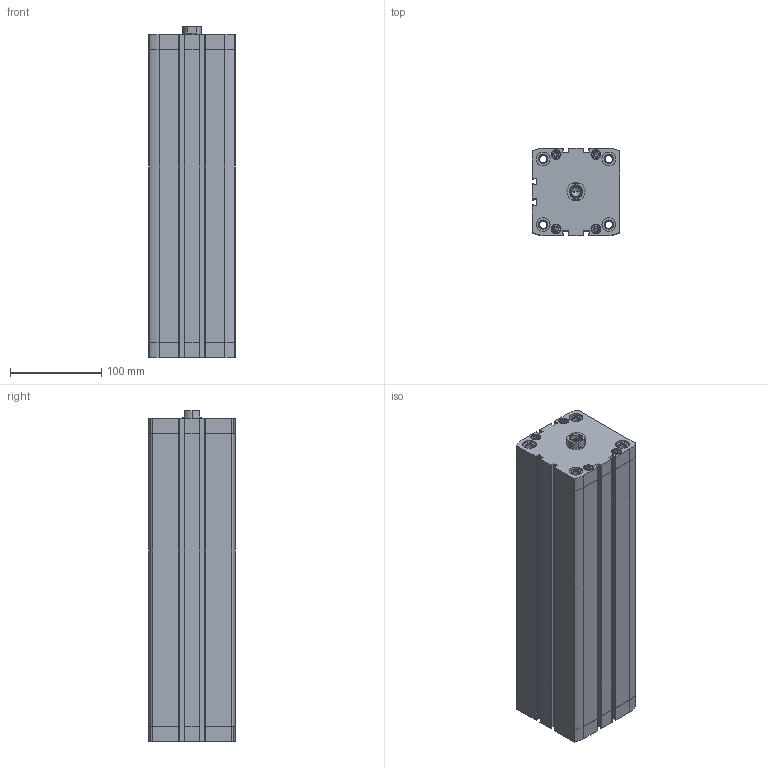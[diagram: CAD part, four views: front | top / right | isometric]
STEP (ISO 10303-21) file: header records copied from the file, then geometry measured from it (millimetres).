
FILE_DESCRIPTION (( 'STEP AP203' ), '1' );
FILE_NAME ('CCN80-300F.STEP', '2017-04-05T19:58:14', ( '' ), ( '' ), 'SwSTEP 2.0', 'SolidWorks 2016', '' );
FILE_SCHEMA (( 'CONFIG_CONTROL_DESIGN' ));
Length unit declared in the file: millimetre
Products named in the file (3): CCN-300_(KS); CCN80-300F; CCN-300---(Z)
Assembly tree (2 placements, depth 2):
  CCN80-300F
    CCN-300---(Z)
    CCN-300_(KS)
Bounding box: 95.5 x 95.5 x 362.9 mm (x, y, z)
Volume: 1609354.9 mm3; surface area: 344085 mm2
Topology: 2 solids, 2 shells, 487 faces, 1230 edges, 777 vertices
Faces by surface type: plane 227, cylinder 186, cone 74
Entity records: 15261 total; most frequent: CARTESIAN_POINT 3031, DIRECTION 2612, ORIENTED_EDGE 2424, EDGE_CURVE 1212, AXIS2_PLACEMENT_3D 974, VERTEX_POINT 777, VECTOR 664, LINE 664
